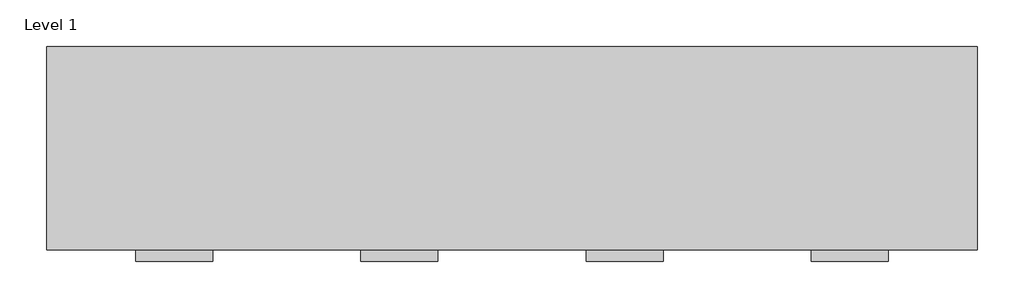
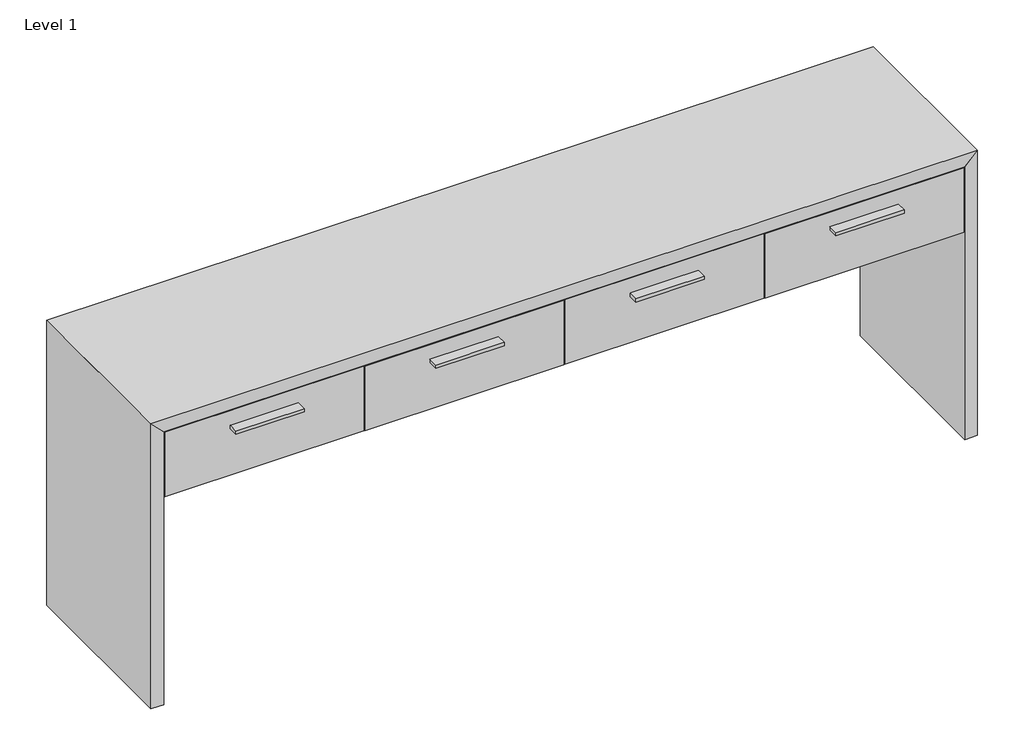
# One storey: 5 proxies.
"""IFC4 building model written with IfcOpenShell, lengths in millimetres."""

from ifc_helpers import new_model, si_unit, origin, place, context, project, spatial, transform, mapped, element, save
from components import generic_models_9caf6cdd, generic_models_2f98a441

model = new_model("IFC4")

# Units and contexts
model_context = context("Model", 3, world=origin())
ifc_project = project(units=[si_unit("LENGTHUNIT", "METRE", prefix="MILLI")], contexts=[model_context])

# Site, building, storey
site = spatial("IfcSite", under=ifc_project)
building = spatial("IfcBuilding", under=site)
storey = spatial("IfcBuildingStorey", under=building, Name="Level 1", Elevation=0.0)

# Proxies
placement = place(None, origin())
generic_models_shape = generic_models_9caf6cdd(model_context)
element("IfcBuildingElementProxy", 1, Name="SCHWINN-BAR PULL 2334.192", ObjectType="SCHWINN-BAR PULL 2334.192", at=placement, inside=storey, context=model_context, shape_type="MappedRepresentation", body=[
    mapped(generic_models_shape, transform((1960.2695312, -508.0, 792.71875), x_axis=(1.0, 0.0, 0.0), y_axis=(0.0, 0.0, 1.0), z_axis=(0.0, -1.0, 0.0))),
])
element("IfcBuildingElementProxy", 2, Name="SCHWINN-BAR PULL 2334.192", ObjectType="SCHWINN-BAR PULL 2334.192", at=placement, inside=storey, context=model_context, shape_type="MappedRepresentation", body=[
    mapped(generic_models_shape, transform((780.3601563, -508.0, 792.71875), x_axis=(1.0, 0.0, 0.0), y_axis=(0.0, 0.0, 1.0), z_axis=(0.0, -1.0, 0.0))),
])
element("IfcBuildingElementProxy", 3, Name="SCHWINN-BAR PULL 2334.192", ObjectType="SCHWINN-BAR PULL 2334.192", at=placement, inside=storey, context=model_context, shape_type="MappedRepresentation", body=[
    mapped(generic_models_shape, transform((1370.3148437, -508.0, 792.71875), x_axis=(1.0, 0.0, 0.0), y_axis=(0.0, 0.0, 1.0), z_axis=(0.0, -1.0, 0.0))),
])
element("IfcBuildingElementProxy", 4, Name="SCHWINN-BAR PULL 2334.192", ObjectType="SCHWINN-BAR PULL 2334.192", at=placement, inside=storey, context=model_context, shape_type="MappedRepresentation", body=[
    mapped(generic_models_shape, transform((190.4054687, -508.0, 792.71875), x_axis=(1.0, 0.0, 0.0), y_axis=(0.0, 0.0, 1.0), z_axis=(0.0, -1.0, 0.0))),
])
generic_models_2_shape = generic_models_2f98a441(model_context)
element("IfcBuildingElementProxy", 5, Name="FOUNDATION^CONSOLE CREDENZA_35x96 4 DOOR-PARTS SOLID", ObjectType="FOUNDATION^CONSOLE CREDENZA_35x96 4 DOOR-PARTS SOLID", at=placement, inside=storey, context=model_context, shape_type="MappedRepresentation", body=[
    mapped(generic_models_2_shape, transform((0.0, 0.0, 0.0), x_axis=(1.0, 0.0, 0.0), y_axis=(0.0, 0.0, 1.0), z_axis=(0.0, -1.0, 0.0))),
])

save(model, "model.ifc")
